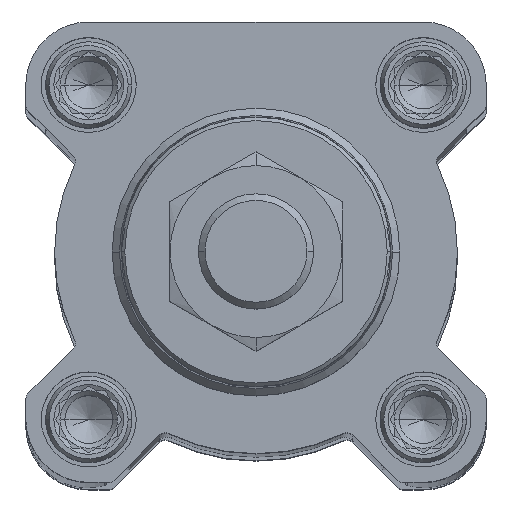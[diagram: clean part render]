
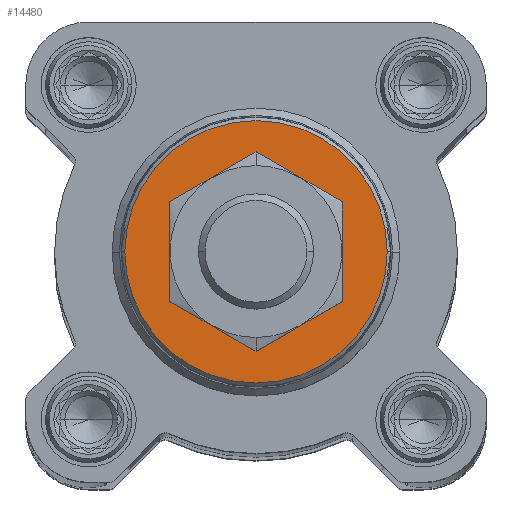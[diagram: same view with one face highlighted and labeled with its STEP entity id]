
A CAD part, top view. The second image highlights one B-rep face of the part: STEP entity #14480.
In plain terms, the highlighted planar face has unit normal (0, 0, 1).
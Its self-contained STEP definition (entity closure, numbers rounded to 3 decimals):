
#947 = VERTEX_POINT ( 'NONE', #18582 ) ;
#2251 = PLANE ( 'NONE',  #19554 ) ;
#2631 = VERTEX_POINT ( 'NONE', #9599 ) ;
#3187 = CARTESIAN_POINT ( 'NONE',  ( 0., 0., 26.8 ) ) ;
#3754 = FACE_OUTER_BOUND ( 'NONE', #17983, .T. ) ;
#4519 = DIRECTION ( 'NONE',  ( -1., 0., 0. ) ) ;
#4980 = VERTEX_POINT ( 'NONE', #15605 ) ;
#5078 = CARTESIAN_POINT ( 'NONE',  ( 0., 0., 26.8 ) ) ;
#5134 = DIRECTION ( 'NONE',  ( -1., 0., 0. ) ) ;
#5157 = EDGE_CURVE ( 'NONE', #19748, #947, #19848, .T. ) ;
#5245 = CIRCLE ( 'NONE', #17510, 10. ) ;
#5539 = ORIENTED_EDGE ( 'NONE', *, *, #5647, .F. ) ;
#5647 = EDGE_CURVE ( 'NONE', #4980, #2631, #18350, .T. ) ;
#5781 = ORIENTED_EDGE ( 'NONE', *, *, #5157, .T. ) ;
#6795 = DIRECTION ( 'NONE',  ( 0., -1., 0. ) ) ;
#7724 = ORIENTED_EDGE ( 'NONE', *, *, #12262, .T. ) ;
#8204 = DIRECTION ( 'NONE',  ( 0., 0., -1. ) ) ;
#8314 = FACE_BOUND ( 'NONE', #12025, .T. ) ;
#8623 = DIRECTION ( 'NONE',  ( -1., 0., 0. ) ) ;
#9456 = DIRECTION ( 'NONE',  ( -1., 0., 0. ) ) ;
#9599 = CARTESIAN_POINT ( 'NONE',  ( 18.242, 0., 26.8 ) ) ;
#9620 = EDGE_CURVE ( 'NONE', #2631, #4980, #18920, .T. ) ;
#9621 = AXIS2_PLACEMENT_3D ( 'NONE', #18378, #16964, #4519 ) ;
#11301 = DIRECTION ( 'NONE',  ( 0., 0., -1. ) ) ;
#11831 = AXIS2_PLACEMENT_3D ( 'NONE', #17467, #11301, #5134 ) ;
#12025 = EDGE_LOOP ( 'NONE', ( #7724, #5781 ) ) ;
#12262 = EDGE_CURVE ( 'NONE', #947, #19748, #5245, .T. ) ;
#13023 = CARTESIAN_POINT ( 'NONE',  ( 10., 0., 26.8 ) ) ;
#14480 = ADVANCED_FACE ( 'NONE', ( #3754, #8314 ), #2251, .F. ) ;
#14928 = ORIENTED_EDGE ( 'NONE', *, *, #9620, .F. ) ;
#15605 = CARTESIAN_POINT ( 'NONE',  ( -18.242, 0., 26.8 ) ) ;
#15978 = AXIS2_PLACEMENT_3D ( 'NONE', #17725, #16116, #8623 ) ;
#16116 = DIRECTION ( 'NONE',  ( 0., 0., -1. ) ) ;
#16964 = DIRECTION ( 'NONE',  ( 0., 0., -1. ) ) ;
#17467 = CARTESIAN_POINT ( 'NONE',  ( 0., 0., 26.8 ) ) ;
#17510 = AXIS2_PLACEMENT_3D ( 'NONE', #3187, #18376, #9456 ) ;
#17725 = CARTESIAN_POINT ( 'NONE',  ( 0., 0., 26.8 ) ) ;
#17983 = EDGE_LOOP ( 'NONE', ( #5539, #14928 ) ) ;
#18350 = CIRCLE ( 'NONE', #9621, 18.242 ) ;
#18376 = DIRECTION ( 'NONE',  ( 0., 0., -1. ) ) ;
#18378 = CARTESIAN_POINT ( 'NONE',  ( 0., 0., 26.8 ) ) ;
#18582 = CARTESIAN_POINT ( 'NONE',  ( -10., 0., 26.8 ) ) ;
#18920 = CIRCLE ( 'NONE', #11831, 18.242 ) ;
#19554 = AXIS2_PLACEMENT_3D ( 'NONE', #5078, #8204, #6795 ) ;
#19748 = VERTEX_POINT ( 'NONE', #13023 ) ;
#19848 = CIRCLE ( 'NONE', #15978, 10. ) ;
